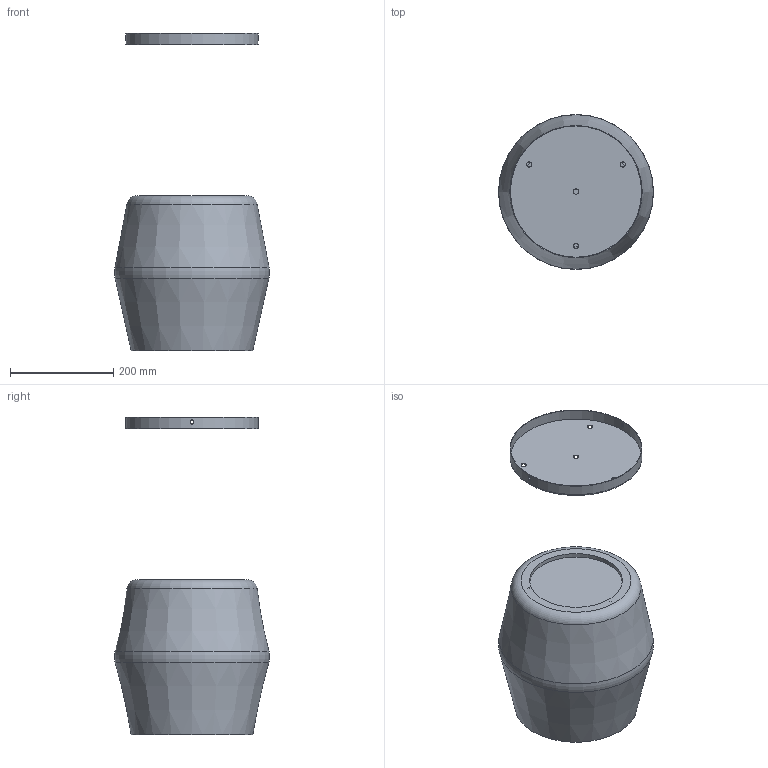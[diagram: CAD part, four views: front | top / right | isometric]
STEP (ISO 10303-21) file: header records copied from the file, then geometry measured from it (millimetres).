
FILE_DESCRIPTION( ( 'STEP AP203' ), '1' );
FILE_NAME( '//srvbf/BF Disegni/ROCCADRIA LUCA/PAGODA/PAGODA-SPA Sospensione Piccola bianco-bianco.stp', '2020-10-15T07:33:34', ( ' ' ), ( ' ' ), 'XStep 1.0', ' ', ' ' );
FILE_SCHEMA( ( 'CONFIG_CONTROL_DESIGN) ( )' ) );
Length unit declared in the file: metre
Products named in the file (4): Assem1; 1; 2; 3
Bounding box: 299.87 x 299.87 x 614 mm (x, y, z)
Volume: 4459832.1 mm3; surface area: 1488978.6 mm2
Topology: 6 solids, 6 shells, 94 faces, 208 edges, 134 vertices
Faces by surface type: cylinder 40, plane 38, torus 8, cone 8
Full cylindrical faces by diameter (mm): 5 x6, 10 x6, 10.5 x2, 180 x2, 205 x2, 225.569 x2, 254 x2, 256 x2
Entity records: 1472 total; most frequent: CARTESIAN_POINT 309, DIRECTION 208, ORIENTED_EDGE 162, AXIS2_PLACEMENT_3D 92, EDGE_LOOP 86, EDGE_CURVE 81, VERTEX_POINT 65, FACE_OUTER_BOUND 63
